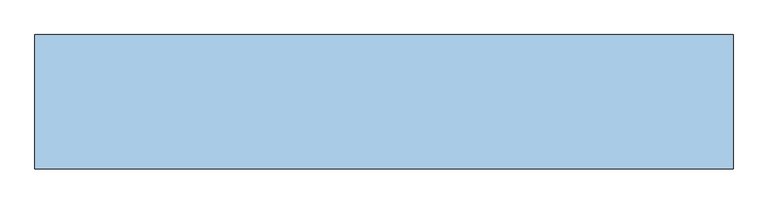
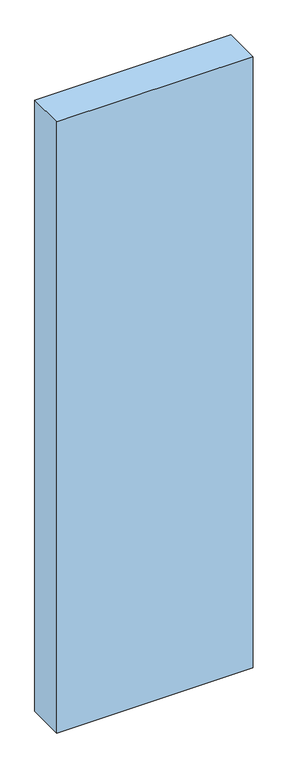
"""IFC4 building model written with IfcOpenShell, lengths in millimetres: window geometry, Dr_Проем-Четверти_об модель : ОК."""

from ifc_helpers import new_model, si_unit, frame, origin, place, context, project, spatial, polyline, outline, extrude, source, transform, mapped, element, save


def window_1ffd1861(model_context):
    return source(origin(), model_context, "Body", "SweptSolid", [
        extrude(outline(polyline([(655.0, 100.0), (655.0, -100.0), (-385.0, -100.0), (-385.0, 100.0), (655.0, 100.0)])), frame((0.0, 0.0, -250.0), z_axis=(0.0, 0.0, 1.0), x_axis=(1.0, 0.0, 0.0)), (0.0, 0.0, 1.0), 3420.0),
    ])


if __name__ == "__main__":
    model = new_model("IFC4")
    model_context = context("Model", 3, world=origin())
    ifc_project = project(units=[si_unit("LENGTHUNIT", "METRE", prefix="MILLI")], contexts=[model_context])
    site = spatial("IfcSite", under=ifc_project)
    building = spatial("IfcBuilding", under=site)
    placement = place(None, origin())
    window_shape = window_1ffd1861(model_context)
    element("IfcWindow", 1, ObjectType="Dr_Проем-Четверти_об модель : ОК", at=placement, inside=building, context=model_context, shape_type="MappedRepresentation", body=[
        mapped(window_shape, transform((0.0, 0.0, 0.0), x_axis=(1.0, 0.0, 0.0), y_axis=(0.0, 1.0, 0.0), z_axis=(0.0, 0.0, 1.0))),
    ])
    save(model, "model.ifc")
